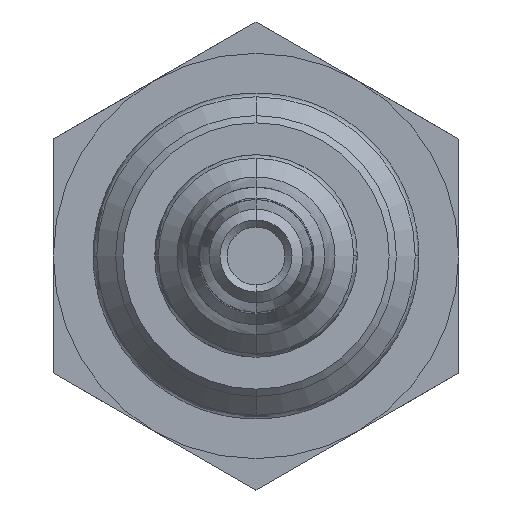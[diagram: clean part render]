
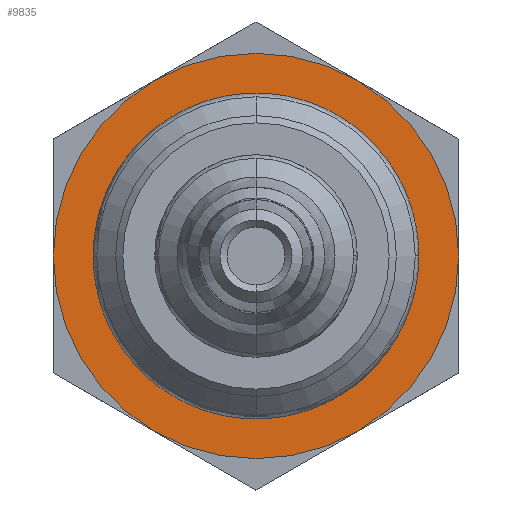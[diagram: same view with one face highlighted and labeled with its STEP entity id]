
A CAD part, front view. The second image highlights one B-rep face of the part: STEP entity #9835.
In plain terms, the highlighted planar face has unit normal (0, -1, 0).
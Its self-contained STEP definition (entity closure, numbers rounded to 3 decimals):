
#706 = CIRCLE ( 'NONE', #3198, 14. ) ;
#708 = CIRCLE ( 'NONE', #3199, 10.25 ) ;
#1612 = AXIS2_PLACEMENT_3D ( 'NONE', #3698, #3699, #3700 ) ;
#1857 = EDGE_CURVE ( 'NONE', #7103, #7106, #13752, .T. ) ;
#3135 = EDGE_CURVE ( 'NONE', #7106, #7103, #706, .T. ) ;
#3136 = EDGE_CURVE ( 'NONE', #7155, #6030, #708, .T. ) ;
#3149 = AXIS2_PLACEMENT_3D ( 'NONE', #4641, #4643, #4645 ) ;
#3198 = AXIS2_PLACEMENT_3D ( 'NONE', #12341, #12342, #12343 ) ;
#3199 = AXIS2_PLACEMENT_3D ( 'NONE', #5002, #5003, #5004 ) ;
#3691 = PLANE ( 'NONE',  #1612 ) ;
#3698 = CARTESIAN_POINT ( 'NONE',  ( 10.25, 35.499, 0. ) ) ;
#3699 = DIRECTION ( 'NONE',  ( 0., 1., 0. ) ) ;
#3700 = DIRECTION ( 'NONE',  ( 0., 0., 1. ) ) ;
#4641 = CARTESIAN_POINT ( 'NONE',  ( 0., 35.499, 0. ) ) ;
#4643 = DIRECTION ( 'NONE',  ( 0., 1., 0. ) ) ;
#4645 = DIRECTION ( 'NONE',  ( 0., 0., 1. ) ) ;
#4791 = CARTESIAN_POINT ( 'NONE',  ( 0., 35.499, -10.25 ) ) ;
#4819 = CARTESIAN_POINT ( 'NONE',  ( 0., 35.499, -14. ) ) ;
#4827 = CARTESIAN_POINT ( 'NONE',  ( 0., 35.499, 14. ) ) ;
#4924 = FACE_OUTER_BOUND ( 'NONE', #11680, .T. ) ;
#4928 = FACE_BOUND ( 'NONE', #11628, .T. ) ;
#5002 = CARTESIAN_POINT ( 'NONE',  ( 0., 35.499, 0. ) ) ;
#5003 = DIRECTION ( 'NONE',  ( 0., 1., 0. ) ) ;
#5004 = DIRECTION ( 'NONE',  ( 0., 0., 1. ) ) ;
#6030 = VERTEX_POINT ( 'NONE', #4791 ) ;
#7103 = VERTEX_POINT ( 'NONE', #4827 ) ;
#7106 = VERTEX_POINT ( 'NONE', #4819 ) ;
#7155 = VERTEX_POINT ( 'NONE', #9083 ) ;
#8400 = CARTESIAN_POINT ( 'NONE',  ( 0., 35.499, 0. ) ) ;
#8401 = DIRECTION ( 'NONE',  ( 0., 1., 0. ) ) ;
#8402 = DIRECTION ( 'NONE',  ( 0., 0., 1. ) ) ;
#8660 = CIRCLE ( 'NONE', #8837, 10.25 ) ;
#8837 = AXIS2_PLACEMENT_3D ( 'NONE', #8400, #8401, #8402 ) ;
#9083 = CARTESIAN_POINT ( 'NONE',  ( 0., 35.499, 10.25 ) ) ;
#9835 = ADVANCED_FACE ( 'NONE', ( #4924, #4928 ), #3691, .F. ) ;
#11512 = EDGE_CURVE ( 'NONE', #6030, #7155, #8660, .T. ) ;
#11628 = EDGE_LOOP ( 'NONE', ( #12955, #12968 ) ) ;
#11680 = EDGE_LOOP ( 'NONE', ( #12980, #12931 ) ) ;
#12341 = CARTESIAN_POINT ( 'NONE',  ( 0., 35.499, 0. ) ) ;
#12342 = DIRECTION ( 'NONE',  ( 0., 1., 0. ) ) ;
#12343 = DIRECTION ( 'NONE',  ( 0., 0., 1. ) ) ;
#12931 = ORIENTED_EDGE ( 'NONE', *, *, #3135, .F. ) ;
#12955 = ORIENTED_EDGE ( 'NONE', *, *, #3136, .T. ) ;
#12968 = ORIENTED_EDGE ( 'NONE', *, *, #11512, .T. ) ;
#12980 = ORIENTED_EDGE ( 'NONE', *, *, #1857, .F. ) ;
#13752 = CIRCLE ( 'NONE', #3149, 14. ) ;
